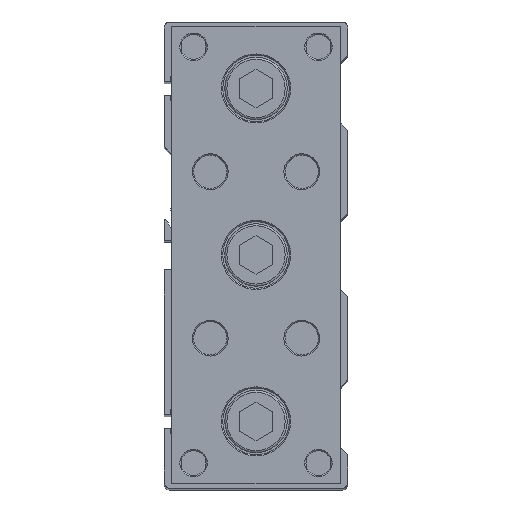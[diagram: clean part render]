
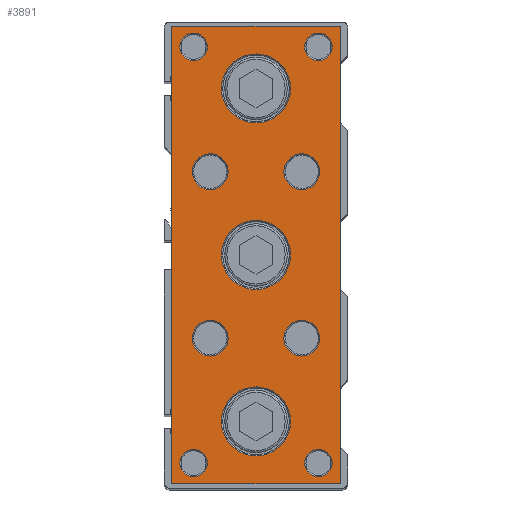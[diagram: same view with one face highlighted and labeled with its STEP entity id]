
A CAD part, top view. The second image highlights one B-rep face of the part: STEP entity #3891.
In plain terms, the highlighted planar face has unit normal (0, 0, 1).
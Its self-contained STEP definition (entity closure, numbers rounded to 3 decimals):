
#3534=CARTESIAN_POINT('',(20.25,55.0,17.0));
#3535=VERTEX_POINT('',#3534);
#3536=CARTESIAN_POINT('',(20.25,-55.0,17.0));
#3537=VERTEX_POINT('',#3536);
#3538=CARTESIAN_POINT('',(20.25,55.0,17.0));
#3539=DIRECTION('',(0.0,-1.0,0.0));
#3540=VECTOR('',#3539,110.0);
#3541=LINE('',#3538,#3540);
#3542=EDGE_CURVE('',#3535,#3537,#3541,.T.);
#3668=CARTESIAN_POINT('',(-20.25,-55.0,17.0));
#3669=VERTEX_POINT('',#3668);
#3670=CARTESIAN_POINT('',(-20.25,55.0,17.0));
#3671=VERTEX_POINT('',#3670);
#3672=CARTESIAN_POINT('',(-20.25,-55.0,17.0));
#3673=DIRECTION('',(0.0,1.0,0.0));
#3674=VECTOR('',#3673,110.0);
#3675=LINE('',#3672,#3674);
#3676=EDGE_CURVE('',#3669,#3671,#3675,.T.);
#3745=CARTESIAN_POINT('',(8.3,0.,17.0));
#3746=VERTEX_POINT('',#3745);
#3747=CARTESIAN_POINT('',(0.0,0.0,17.0));
#3748=DIRECTION('',(0.0,0.0,1.0));
#3749=DIRECTION('',(-1.0,0.0,0.0));
#3750=AXIS2_PLACEMENT_3D('',#3747,#3748,#3749);
#3751=CIRCLE('',#3750,8.3);
#3752=EDGE_CURVE('',#3746,#3746,#3751,.T.);
#3757=CARTESIAN_POINT('',(0.0,0.,17.0));
#3758=DIRECTION('',(0.0,0.0,1.0));
#3759=DIRECTION('',(1.0,0.0,0.0));
#3760=AXIS2_PLACEMENT_3D('',#3757,#3758,#3759);
#3761=PLANE('',#3760);
#3762=ORIENTED_EDGE('',*,*,#3542,.F.);
#3763=CARTESIAN_POINT('',(-20.25,55.0,17.0));
#3764=DIRECTION('',(1.0,0.0,0.0));
#3765=VECTOR('',#3764,40.5);
#3766=LINE('',#3763,#3765);
#3767=EDGE_CURVE('',#3671,#3535,#3766,.T.);
#3768=ORIENTED_EDGE('',*,*,#3767,.F.);
#3769=ORIENTED_EDGE('',*,*,#3676,.F.);
#3770=CARTESIAN_POINT('',(20.25,-55.0,17.0));
#3771=DIRECTION('',(-1.0,0.0,0.0));
#3772=VECTOR('',#3771,40.5);
#3773=LINE('',#3770,#3772);
#3774=EDGE_CURVE('',#3537,#3669,#3773,.T.);
#3775=ORIENTED_EDGE('',*,*,#3774,.F.);
#3776=EDGE_LOOP('',(#3762,#3768,#3769,#3775));
#3777=FACE_OUTER_BOUND('',#3776,.T.);
#3778=CARTESIAN_POINT('',(8.3,-40.0,17.0));
#3779=VERTEX_POINT('',#3778);
#3780=CARTESIAN_POINT('',(0.0,-40.0,17.0));
#3781=DIRECTION('',(0.0,0.0,1.0));
#3782=DIRECTION('',(-1.0,0.0,0.0));
#3783=AXIS2_PLACEMENT_3D('',#3780,#3781,#3782);
#3784=CIRCLE('',#3783,8.3);
#3785=EDGE_CURVE('',#3779,#3779,#3784,.T.);
#3786=ORIENTED_EDGE('',*,*,#3785,.F.);
#3787=EDGE_LOOP('',(#3786));
#3788=FACE_BOUND('',#3787,.T.);
#3789=CARTESIAN_POINT('',(18.3,-50.0,17.0));
#3790=VERTEX_POINT('',#3789);
#3791=CARTESIAN_POINT('',(15.0,-50.0,17.0));
#3792=DIRECTION('',(0.0,0.0,1.0));
#3793=DIRECTION('',(-1.0,0.0,0.0));
#3794=AXIS2_PLACEMENT_3D('',#3791,#3792,#3793);
#3795=CIRCLE('',#3794,3.3);
#3796=EDGE_CURVE('',#3790,#3790,#3795,.T.);
#3797=ORIENTED_EDGE('',*,*,#3796,.F.);
#3798=EDGE_LOOP('',(#3797));
#3799=FACE_BOUND('',#3798,.T.);
#3800=CARTESIAN_POINT('',(18.3,50.0,17.0));
#3801=VERTEX_POINT('',#3800);
#3802=CARTESIAN_POINT('',(15.0,50.0,17.0));
#3803=DIRECTION('',(0.0,0.0,1.0));
#3804=DIRECTION('',(-1.0,0.0,0.0));
#3805=AXIS2_PLACEMENT_3D('',#3802,#3803,#3804);
#3806=CIRCLE('',#3805,3.3);
#3807=EDGE_CURVE('',#3801,#3801,#3806,.T.);
#3808=ORIENTED_EDGE('',*,*,#3807,.F.);
#3809=EDGE_LOOP('',(#3808));
#3810=FACE_BOUND('',#3809,.T.);
#3811=CARTESIAN_POINT('',(-11.7,-50.0,17.0));
#3812=VERTEX_POINT('',#3811);
#3813=CARTESIAN_POINT('',(-15.0,-50.0,17.0));
#3814=DIRECTION('',(0.0,0.0,1.0));
#3815=DIRECTION('',(-1.0,0.0,0.0));
#3816=AXIS2_PLACEMENT_3D('',#3813,#3814,#3815);
#3817=CIRCLE('',#3816,3.3);
#3818=EDGE_CURVE('',#3812,#3812,#3817,.T.);
#3819=ORIENTED_EDGE('',*,*,#3818,.F.);
#3820=EDGE_LOOP('',(#3819));
#3821=FACE_BOUND('',#3820,.T.);
#3822=CARTESIAN_POINT('',(-6.7,20.0,17.0));
#3823=VERTEX_POINT('',#3822);
#3824=CARTESIAN_POINT('',(-11.0,20.0,17.0));
#3825=DIRECTION('',(0.0,0.0,1.0));
#3826=DIRECTION('',(-1.0,0.0,0.0));
#3827=AXIS2_PLACEMENT_3D('',#3824,#3825,#3826);
#3828=CIRCLE('',#3827,4.3);
#3829=EDGE_CURVE('',#3823,#3823,#3828,.T.);
#3830=ORIENTED_EDGE('',*,*,#3829,.F.);
#3831=EDGE_LOOP('',(#3830));
#3832=FACE_BOUND('',#3831,.T.);
#3833=CARTESIAN_POINT('',(-11.7,50.0,17.0));
#3834=VERTEX_POINT('',#3833);
#3835=CARTESIAN_POINT('',(-15.0,50.0,17.0));
#3836=DIRECTION('',(0.0,0.0,1.0));
#3837=DIRECTION('',(-1.0,0.0,0.0));
#3838=AXIS2_PLACEMENT_3D('',#3835,#3836,#3837);
#3839=CIRCLE('',#3838,3.3);
#3840=EDGE_CURVE('',#3834,#3834,#3839,.T.);
#3841=ORIENTED_EDGE('',*,*,#3840,.F.);
#3842=EDGE_LOOP('',(#3841));
#3843=FACE_BOUND('',#3842,.T.);
#3844=CARTESIAN_POINT('',(-6.7,-20.0,17.0));
#3845=VERTEX_POINT('',#3844);
#3846=CARTESIAN_POINT('',(-11.0,-20.0,17.0));
#3847=DIRECTION('',(0.0,0.0,1.0));
#3848=DIRECTION('',(-1.0,0.0,0.0));
#3849=AXIS2_PLACEMENT_3D('',#3846,#3847,#3848);
#3850=CIRCLE('',#3849,4.3);
#3851=EDGE_CURVE('',#3845,#3845,#3850,.T.);
#3852=ORIENTED_EDGE('',*,*,#3851,.F.);
#3853=EDGE_LOOP('',(#3852));
#3854=FACE_BOUND('',#3853,.T.);
#3855=CARTESIAN_POINT('',(15.3,-20.0,17.0));
#3856=VERTEX_POINT('',#3855);
#3857=CARTESIAN_POINT('',(11.0,-20.0,17.0));
#3858=DIRECTION('',(0.0,0.0,1.0));
#3859=DIRECTION('',(-1.0,0.0,0.0));
#3860=AXIS2_PLACEMENT_3D('',#3857,#3858,#3859);
#3861=CIRCLE('',#3860,4.3);
#3862=EDGE_CURVE('',#3856,#3856,#3861,.T.);
#3863=ORIENTED_EDGE('',*,*,#3862,.F.);
#3864=EDGE_LOOP('',(#3863));
#3865=FACE_BOUND('',#3864,.T.);
#3866=CARTESIAN_POINT('',(15.3,20.0,17.0));
#3867=VERTEX_POINT('',#3866);
#3868=CARTESIAN_POINT('',(11.0,20.0,17.0));
#3869=DIRECTION('',(0.0,0.0,1.0));
#3870=DIRECTION('',(-1.0,0.0,0.0));
#3871=AXIS2_PLACEMENT_3D('',#3868,#3869,#3870);
#3872=CIRCLE('',#3871,4.3);
#3873=EDGE_CURVE('',#3867,#3867,#3872,.T.);
#3874=ORIENTED_EDGE('',*,*,#3873,.F.);
#3875=EDGE_LOOP('',(#3874));
#3876=FACE_BOUND('',#3875,.T.);
#3877=CARTESIAN_POINT('',(8.3,40.0,17.0));
#3878=VERTEX_POINT('',#3877);
#3879=CARTESIAN_POINT('',(0.0,40.0,17.0));
#3880=DIRECTION('',(0.0,0.0,1.0));
#3881=DIRECTION('',(-1.0,0.0,0.0));
#3882=AXIS2_PLACEMENT_3D('',#3879,#3880,#3881);
#3883=CIRCLE('',#3882,8.3);
#3884=EDGE_CURVE('',#3878,#3878,#3883,.T.);
#3885=ORIENTED_EDGE('',*,*,#3884,.F.);
#3886=EDGE_LOOP('',(#3885));
#3887=FACE_BOUND('',#3886,.T.);
#3888=ORIENTED_EDGE('',*,*,#3752,.F.);
#3889=EDGE_LOOP('',(#3888));
#3890=FACE_BOUND('',#3889,.T.);
#3891=ADVANCED_FACE('',(#3777,#3788,#3799,#3810,#3821,#3832,#3843,#3854,#3865,#3876,#3887,#3890),#3761,.T.);
